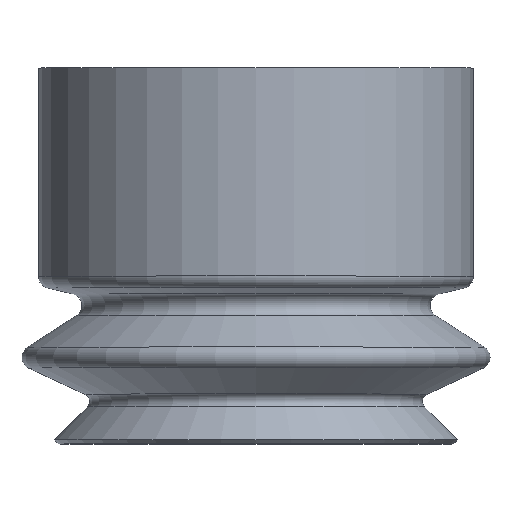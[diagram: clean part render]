
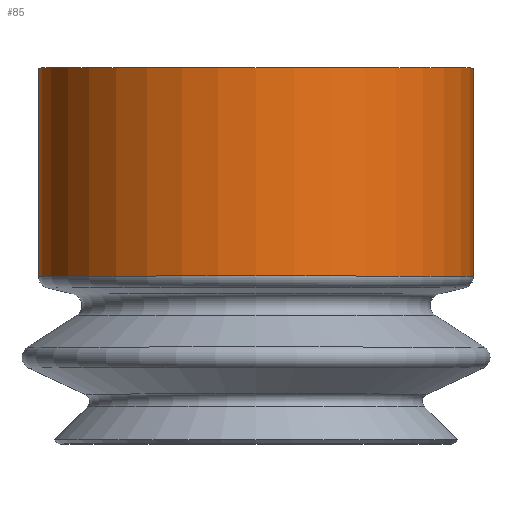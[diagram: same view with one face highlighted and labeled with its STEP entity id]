
A CAD part, top view. The second image highlights one B-rep face of the part: STEP entity #85.
In plain terms, the highlighted cylindrical face has radius 5.5 mm (diameter 11 mm), a full revolution.
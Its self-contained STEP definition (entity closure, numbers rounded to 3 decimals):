
#85=ADVANCED_FACE('',(#126,#127),#128,.T.);
#126=FACE_OUTER_BOUND('',#186,.T.);
#127=FACE_OUTER_BOUND('',#187,.T.);
#128=CYLINDRICAL_SURFACE('',#188,5.5);
#186=EDGE_LOOP('',(#266));
#187=EDGE_LOOP('',(#267));
#188=AXIS2_PLACEMENT_3D('',#268,#269,#270);
#266=ORIENTED_EDGE('',*,*,#316,.T.);
#267=ORIENTED_EDGE('',*,*,#332,.T.);
#268=CARTESIAN_POINT('',(0.0,0.0,0.0));
#269=DIRECTION('',(0.0,-1.0,0.));
#270=DIRECTION('',(0.0,0.,-1.0));
#316=EDGE_CURVE('',#336,#336,#337,.T.);
#332=EDGE_CURVE('',#368,#368,#369,.T.);
#336=VERTEX_POINT('',#376);
#337=CIRCLE('',#377,5.5);
#368=VERTEX_POINT('',#408);
#369=CIRCLE('',#409,5.5);
#376=CARTESIAN_POINT('',(0.0,10.818,5.5));
#377=AXIS2_PLACEMENT_3D('',#416,#417,#418);
#408=CARTESIAN_POINT('',(5.5,16.081,0.));
#409=AXIS2_PLACEMENT_3D('',#464,#465,#466);
#416=CARTESIAN_POINT('',(0.0,10.818,0.));
#417=DIRECTION('',(0.0,1.0,0.));
#418=DIRECTION('',(0.0,0.,1.0));
#464=CARTESIAN_POINT('',(0.0,16.081,0.));
#465=DIRECTION('',(0.0,-1.0,0.));
#466=DIRECTION('',(0.0,0.,-1.0));
